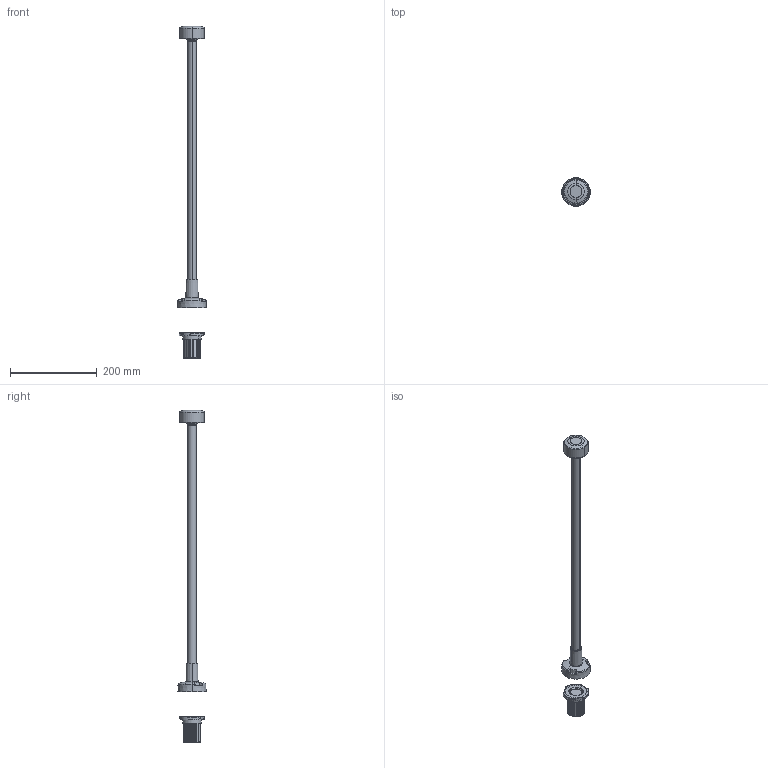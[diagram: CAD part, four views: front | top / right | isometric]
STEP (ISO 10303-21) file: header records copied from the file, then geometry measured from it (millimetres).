
FILE_DESCRIPTION (( 'STEP AP203' ), '1' );
FILE_NAME ('11.152.11_202509.STEP', '2025-09-23T10:22:07', ( '' ), ( '' ), 'SwSTEP 2.0', 'SolidWorks 2025', '' );
FILE_SCHEMA (( 'CONFIG_CONTROL_DESIGN' ));
Length unit declared in the file: millimetre
Products named in the file (3): 24PJ-010-S10-C02; 11.152.11; 11.152.11_202509
Assembly tree (2 placements, depth 2):
  11.152.11_202509
    11.152.11
    24PJ-010-S10-C02
Bounding box: 66 x 66 x 766.35 mm (x, y, z)
Volume: 324653.7 mm3; surface area: 94076.8 mm2
Topology: 3 solids, 3 shells, 575 faces, 1526 edges, 949 vertices
Faces by surface type: bspline 310, plane 68, torus 67, cylinder 59, cone 38, sphere 33
Entity records: 219156 total; most frequent: CARTESIAN_POINT 207350, ORIENTED_EDGE 3028, DIRECTION 1628, EDGE_CURVE 1514, VERTEX_POINT 946, B_SPLINE_CURVE_WITH_KNOTS 813, AXIS2_PLACEMENT_3D 749, EDGE_LOOP 582
